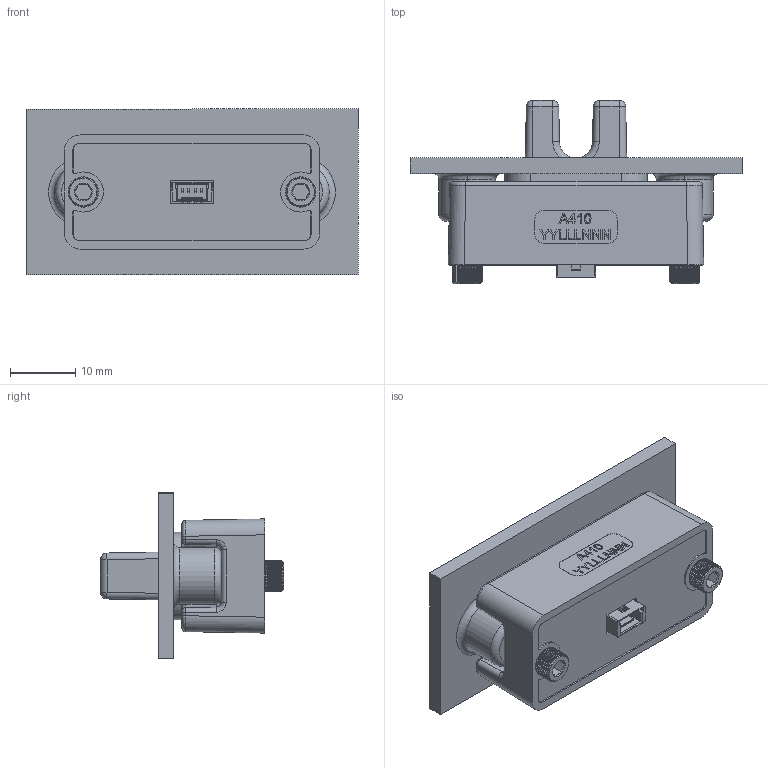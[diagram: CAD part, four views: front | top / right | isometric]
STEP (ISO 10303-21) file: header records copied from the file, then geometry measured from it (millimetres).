
FILE_DESCRIPTION (( 'STEP AP214' ), '1' );
FILE_NAME ('SMD8163-A410_MOUNTING.STEP', '2021-03-02T21:02:47', ( '' ), ( '' ), 'SwSTEP 2.0', 'SolidWorks 2020', '' );
FILE_SCHEMA (( 'AUTOMOTIVE_DESIGN' ));
Length unit declared in the file: inch
Products named in the file (8): SMD8164-A410_C; SMD8163-A410_MOUNTING; McMaster_92196A109_92196A109; A410_Panel_Example; A410 701-8663_C; Molex_5013310407; PennEngineering_IBB-440-6; SMD8172-A410_C
Assembly tree (9 placements, depth 2):
  SMD8163-A410_MOUNTING
    SMD8164-A410_C
    A410 701-8663_C
    Molex_5013310407
    A410_Panel_Example
    SMD8172-A410_C
    McMaster_92196A109_92196A109  x2
    PennEngineering_IBB-440-6  x2
Bounding box: 50.8 x 28 x 25.4 mm (x, y, z)
Volume: 12466.9 mm3; surface area: 8520.3 mm2
Topology: 9 solids, 9 shells, 1142 faces, 2860 edges, 1772 vertices
Faces by surface type: plane 627, cylinder 266, cone 166, bspline 59, torus 16, sphere 8
Entity records: 30413 total; most frequent: CARTESIAN_POINT 9288, ORIENTED_EDGE 4254, DIRECTION 3517, EDGE_CURVE 2127, VERTEX_POINT 1338, VECTOR 1271, LINE 1271, AXIS2_PLACEMENT_3D 1123
